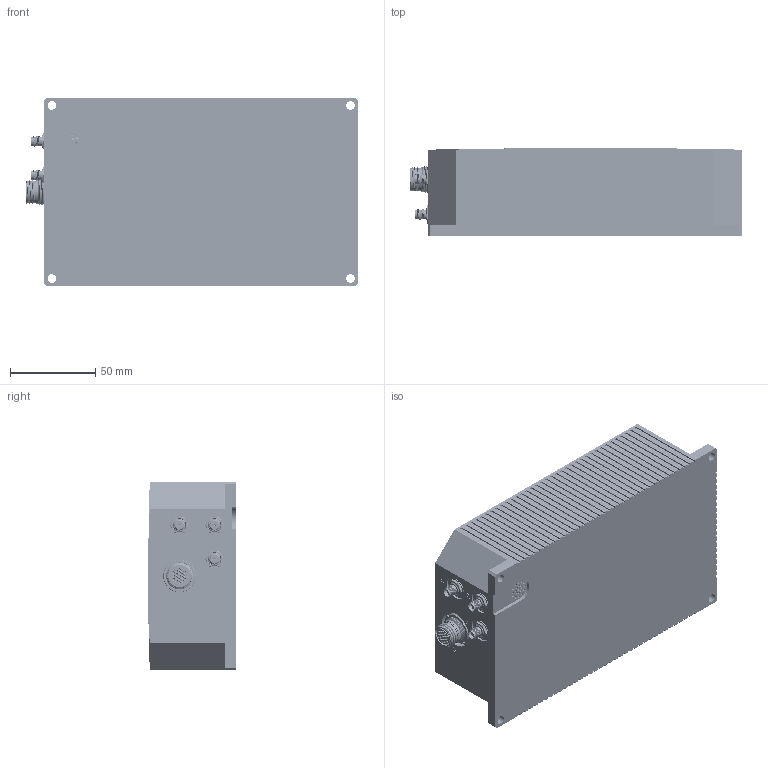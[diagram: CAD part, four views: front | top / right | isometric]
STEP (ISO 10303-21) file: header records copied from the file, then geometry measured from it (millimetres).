
FILE_DESCRIPTION (( 'STEP AP214' ), '1' );
FILE_NAME ('NW-BA-KU-20-C01-S01.STEP', '2026-09-30T20:37:16', ( '' ), ( '' ), 'SwSTEP 2.0', 'SolidWorks 2025', '' );
FILE_SCHEMA (( 'AUTOMOTIVE_DESIGN' ));
Length unit declared in the file: inch
Products named in the file (9): 91771A104 (71589) - SCREW, PFHMS, SS, #2-56 X .250L_91771A104; 132170-12.stp; MD801-009-07M9-19SA_WEB.step; A7445-1505; A7445-1510; A7445-1600; A7445-1500; NW-BA-KU-20-C01-S01; 901-9808.stp
Assembly tree (45 placements, depth 2):
  NW-BA-KU-20-C01-S01
    A7445-1500
    A7445-1505
    A7445-1510
    A7445-1600
    91771A104 (71589) - SCREW, PFHMS, SS, #2-56 X .250L_91771A104  x34
    MD801-009-07M9-19SA_WEB.step
    132170-12.stp  x3
    901-9808.stp  x3
Bounding box: 194.9 x 51.33 x 110.49 mm (x, y, z)
Volume: 308113 mm3; surface area: 184931.5 mm2
Topology: 107 solids, 107 shells, 9224 faces, 24276 edges, 15252 vertices
Faces by surface type: plane 2762, cylinder 2756, cone 2681, bspline 988, torus 37
Entity records: 182569 total; most frequent: CARTESIAN_POINT 75212, ORIENTED_EDGE 23326, DIRECTION 19564, EDGE_CURVE 11663, VERTEX_POINT 7576, LINE 7226, VECTOR 7226, AXIS2_PLACEMENT_3D 6169
